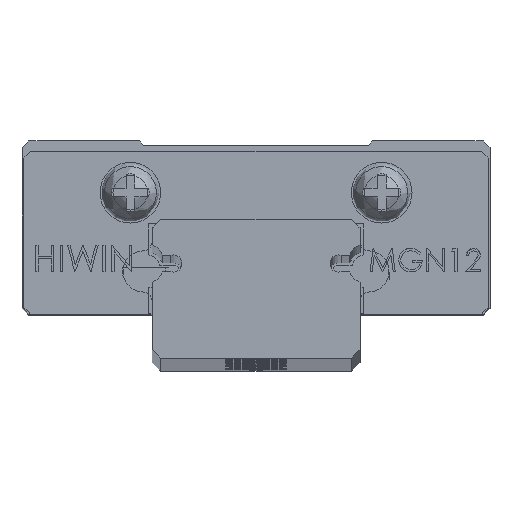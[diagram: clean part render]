
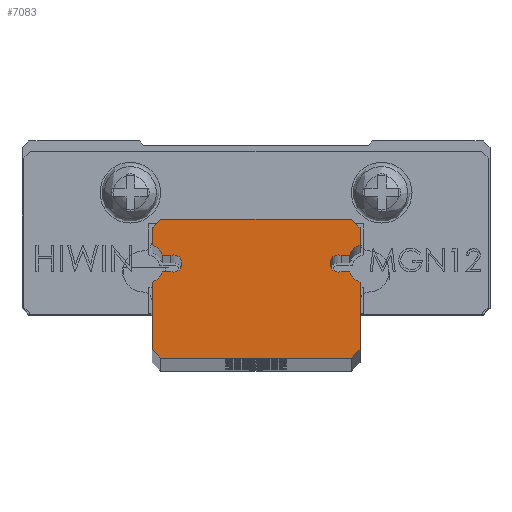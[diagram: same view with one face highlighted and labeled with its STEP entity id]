
A CAD part, top view. The second image highlights one B-rep face of the part: STEP entity #7083.
In plain terms, the highlighted planar face has unit normal (0, 0, 1).
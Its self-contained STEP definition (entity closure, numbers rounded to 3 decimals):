
#587=PLANE('',#7563);
#868=FACE_OUTER_BOUND('',#1311,.T.);
#1311=EDGE_LOOP('',(#5164,#5165,#5166,#5167,#5168,#5169,#5170,#5171,#5172,
#5173,#5174,#5175,#5176,#5177,#5178,#5179,#5180,#5181,#5182,#5183));
#1693=LINE('',#10120,#2346);
#1697=LINE('',#10132,#2350);
#1701=LINE('',#10144,#2354);
#1704=LINE('',#10150,#2357);
#1707=LINE('',#10156,#2360);
#1710=LINE('',#10162,#2363);
#1713=LINE('',#10168,#2366);
#1717=LINE('',#10180,#2370);
#1721=LINE('',#10192,#2374);
#1725=LINE('',#10204,#2378);
#1728=LINE('',#10210,#2381);
#1731=LINE('',#10216,#2384);
#1734=LINE('',#10222,#2387);
#1737=LINE('',#10227,#2390);
#2346=VECTOR('',#8303,1000.);
#2350=VECTOR('',#8315,1000.);
#2354=VECTOR('',#8327,1000.);
#2357=VECTOR('',#8332,1000.);
#2360=VECTOR('',#8337,1000.);
#2363=VECTOR('',#8342,1000.);
#2366=VECTOR('',#8347,1000.);
#2370=VECTOR('',#8359,1000.);
#2374=VECTOR('',#8371,1000.);
#2378=VECTOR('',#8383,1000.);
#2381=VECTOR('',#8388,1000.);
#2384=VECTOR('',#8393,1000.);
#2387=VECTOR('',#8398,1000.);
#2390=VECTOR('',#8403,1000.);
#3031=CIRCLE('',#7531,1.19);
#3033=CIRCLE('',#7535,0.5);
#3035=CIRCLE('',#7539,1.19);
#3037=CIRCLE('',#7547,1.19);
#3039=CIRCLE('',#7551,0.5);
#3041=CIRCLE('',#7555,1.19);
#3229=VERTEX_POINT('',#10110);
#3230=VERTEX_POINT('',#10111);
#3233=VERTEX_POINT('',#10119);
#3235=VERTEX_POINT('',#10125);
#3237=VERTEX_POINT('',#10131);
#3239=VERTEX_POINT('',#10137);
#3241=VERTEX_POINT('',#10143);
#3243=VERTEX_POINT('',#10149);
#3245=VERTEX_POINT('',#10155);
#3247=VERTEX_POINT('',#10161);
#3249=VERTEX_POINT('',#10167);
#3251=VERTEX_POINT('',#10173);
#3253=VERTEX_POINT('',#10179);
#3255=VERTEX_POINT('',#10185);
#3257=VERTEX_POINT('',#10191);
#3259=VERTEX_POINT('',#10197);
#3261=VERTEX_POINT('',#10203);
#3263=VERTEX_POINT('',#10209);
#3265=VERTEX_POINT('',#10215);
#3267=VERTEX_POINT('',#10221);
#3942=EDGE_CURVE('',#3229,#3230,#3031,.T.);
#3946=EDGE_CURVE('',#3230,#3233,#1693,.T.);
#3949=EDGE_CURVE('',#3233,#3235,#3033,.T.);
#3952=EDGE_CURVE('',#3237,#3235,#1697,.T.);
#3955=EDGE_CURVE('',#3237,#3239,#3035,.T.);
#3958=EDGE_CURVE('',#3239,#3241,#1701,.T.);
#3961=EDGE_CURVE('',#3243,#3241,#1704,.T.);
#3964=EDGE_CURVE('',#3243,#3245,#1707,.T.);
#3967=EDGE_CURVE('',#3245,#3247,#1710,.T.);
#3970=EDGE_CURVE('',#3249,#3247,#1713,.T.);
#3973=EDGE_CURVE('',#3251,#3249,#3037,.T.);
#3976=EDGE_CURVE('',#3251,#3253,#1717,.T.);
#3979=EDGE_CURVE('',#3255,#3253,#3039,.T.);
#3982=EDGE_CURVE('',#3257,#3255,#1721,.T.);
#3985=EDGE_CURVE('',#3259,#3257,#3041,.T.);
#3988=EDGE_CURVE('',#3261,#3259,#1725,.T.);
#3991=EDGE_CURVE('',#3263,#3261,#1728,.T.);
#3994=EDGE_CURVE('',#3265,#3263,#1731,.T.);
#3997=EDGE_CURVE('',#3265,#3267,#1734,.T.);
#4000=EDGE_CURVE('',#3267,#3229,#1737,.T.);
#5164=ORIENTED_EDGE('',*,*,#4000,.T.);
#5165=ORIENTED_EDGE('',*,*,#3942,.T.);
#5166=ORIENTED_EDGE('',*,*,#3946,.T.);
#5167=ORIENTED_EDGE('',*,*,#3949,.T.);
#5168=ORIENTED_EDGE('',*,*,#3952,.F.);
#5169=ORIENTED_EDGE('',*,*,#3955,.T.);
#5170=ORIENTED_EDGE('',*,*,#3958,.T.);
#5171=ORIENTED_EDGE('',*,*,#3961,.F.);
#5172=ORIENTED_EDGE('',*,*,#3964,.T.);
#5173=ORIENTED_EDGE('',*,*,#3967,.T.);
#5174=ORIENTED_EDGE('',*,*,#3970,.F.);
#5175=ORIENTED_EDGE('',*,*,#3973,.F.);
#5176=ORIENTED_EDGE('',*,*,#3976,.T.);
#5177=ORIENTED_EDGE('',*,*,#3979,.F.);
#5178=ORIENTED_EDGE('',*,*,#3982,.F.);
#5179=ORIENTED_EDGE('',*,*,#3985,.F.);
#5180=ORIENTED_EDGE('',*,*,#3988,.F.);
#5181=ORIENTED_EDGE('',*,*,#3991,.F.);
#5182=ORIENTED_EDGE('',*,*,#3994,.F.);
#5183=ORIENTED_EDGE('',*,*,#3997,.T.);
#7083=ADVANCED_FACE('',(#868),#587,.T.);
#7531=AXIS2_PLACEMENT_3D('',#10112,#8295,#8296);
#7535=AXIS2_PLACEMENT_3D('',#10126,#8308,#8309);
#7539=AXIS2_PLACEMENT_3D('',#10138,#8320,#8321);
#7547=AXIS2_PLACEMENT_3D('',#10174,#8352,#8353);
#7551=AXIS2_PLACEMENT_3D('',#10186,#8364,#8365);
#7555=AXIS2_PLACEMENT_3D('',#10198,#8376,#8377);
#7563=AXIS2_PLACEMENT_3D('',#10230,#8407,#8408);
#8295=DIRECTION('center_axis',(0.,0.,
-1.));
#8296=DIRECTION('ref_axis',(1.,0.,0.));
#8303=DIRECTION('',(-1.,0.,0.));
#8308=DIRECTION('center_axis',(0.,0.,
-1.));
#8309=DIRECTION('ref_axis',(1.,0.,0.));
#8315=DIRECTION('',(-1.,0.,0.));
#8320=DIRECTION('center_axis',(0.,0.,
-1.));
#8321=DIRECTION('ref_axis',(1.,0.,0.));
#8327=DIRECTION('',(0.,1.,0.));
#8332=DIRECTION('',(0.707,-0.707,0.));
#8337=DIRECTION('',(-1.,0.,0.));
#8342=DIRECTION('',(-0.707,-0.707,0.));
#8347=DIRECTION('',(0.,1.,0.));
#8352=DIRECTION('center_axis',(0.,0.,
1.));
#8353=DIRECTION('ref_axis',(1.,0.,0.));
#8359=DIRECTION('',(1.,0.,0.));
#8364=DIRECTION('center_axis',(0.,0.,
1.));
#8365=DIRECTION('ref_axis',(1.,0.,0.));
#8371=DIRECTION('',(1.,0.,0.));
#8376=DIRECTION('center_axis',(0.,0.,
1.));
#8377=DIRECTION('ref_axis',(1.,0.,0.));
#8383=DIRECTION('',(0.,1.,0.));
#8388=DIRECTION('',(-0.707,0.707,0.));
#8393=DIRECTION('',(-1.,0.,0.));
#8398=DIRECTION('',(0.707,0.707,0.));
#8403=DIRECTION('',(0.,1.,0.));
#8407=DIRECTION('center_axis',(0.,0.,
1.));
#8408=DIRECTION('ref_axis',(1.,0.,0.));
#10110=CARTESIAN_POINT('',(42.315,-22.663,-5.521));
#10111=CARTESIAN_POINT('',(41.698,-22.047,-5.521));
#10112=CARTESIAN_POINT('Origin',(42.79,-21.572,-5.521));
#10119=CARTESIAN_POINT('',(41.236,-22.047,-5.521));
#10120=CARTESIAN_POINT('',(36.315,-22.047,-5.521));
#10125=CARTESIAN_POINT('',(41.236,-21.097,-5.521));
#10126=CARTESIAN_POINT('Origin',(41.08,-21.572,-5.521));
#10131=CARTESIAN_POINT('',(41.698,-21.097,-5.521));
#10132=CARTESIAN_POINT('',(36.315,-21.097,-5.521));
#10137=CARTESIAN_POINT('',(42.315,-20.48,-5.521));
#10138=CARTESIAN_POINT('Origin',(42.79,-21.572,-5.521));
#10143=CARTESIAN_POINT('',(42.315,-19.532,-5.521));
#10144=CARTESIAN_POINT('',(42.315,-23.032,-5.521));
#10149=CARTESIAN_POINT('',(41.815,-19.032,-5.521));
#10150=CARTESIAN_POINT('',(41.065,-18.282,-5.521));
#10155=CARTESIAN_POINT('',(30.815,-19.032,-5.521));
#10156=CARTESIAN_POINT('',(36.315,-19.032,-5.521));
#10161=CARTESIAN_POINT('',(30.315,-19.532,-5.521));
#10162=CARTESIAN_POINT('',(31.565,-18.282,-5.521));
#10167=CARTESIAN_POINT('',(30.315,-20.48,-5.521));
#10168=CARTESIAN_POINT('',(30.315,-23.032,-5.521));
#10173=CARTESIAN_POINT('',(30.931,-21.097,-5.521));
#10174=CARTESIAN_POINT('Origin',(29.84,-21.572,-5.521));
#10179=CARTESIAN_POINT('',(31.393,-21.097,-5.521));
#10180=CARTESIAN_POINT('',(36.315,-21.097,-5.521));
#10185=CARTESIAN_POINT('',(31.393,-22.047,-5.521));
#10186=CARTESIAN_POINT('Origin',(31.55,-21.572,-5.521));
#10191=CARTESIAN_POINT('',(30.931,-22.047,-5.521));
#10192=CARTESIAN_POINT('',(36.315,-22.047,-5.521));
#10197=CARTESIAN_POINT('',(30.315,-22.663,-5.521));
#10198=CARTESIAN_POINT('Origin',(29.84,-21.572,-5.521));
#10203=CARTESIAN_POINT('',(30.315,-26.532,-5.521));
#10204=CARTESIAN_POINT('',(30.315,-23.032,-5.521));
#10209=CARTESIAN_POINT('',(30.815,-27.032,-5.521));
#10210=CARTESIAN_POINT('',(31.565,-27.782,-5.521));
#10215=CARTESIAN_POINT('',(41.815,-27.032,-5.521));
#10216=CARTESIAN_POINT('',(36.315,-27.032,-5.521));
#10221=CARTESIAN_POINT('',(42.315,-26.532,-5.521));
#10222=CARTESIAN_POINT('',(41.065,-27.782,-5.521));
#10227=CARTESIAN_POINT('',(42.315,-23.032,-5.521));
#10230=CARTESIAN_POINT('Origin',(36.315,-23.032,-5.521));
